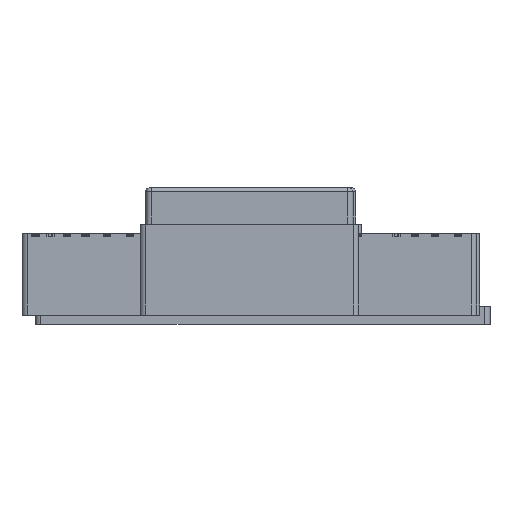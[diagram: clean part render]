
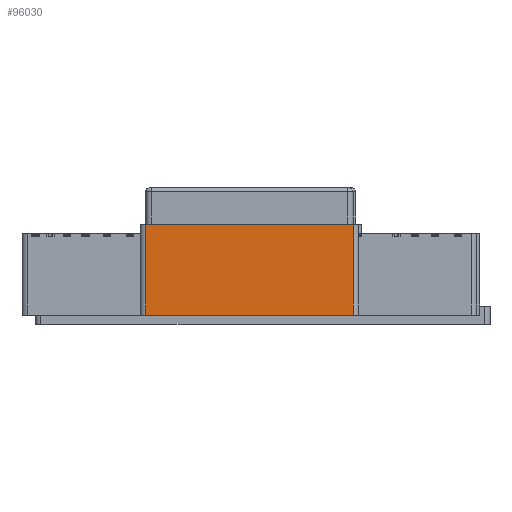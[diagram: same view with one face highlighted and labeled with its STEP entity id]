
A CAD part, left-side view. The second image highlights one B-rep face of the part: STEP entity #96030.
In plain terms, the highlighted planar face has unit normal (-1, 0, 0).
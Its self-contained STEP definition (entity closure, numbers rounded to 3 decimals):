
#9989=PLANE('',#100766);
#13856=LINE('',#144498,#22396);
#13865=LINE('',#144527,#22405);
#13867=LINE('',#144531,#22407);
#13868=LINE('',#144532,#22408);
#22396=VECTOR('',#105690,10.);
#22405=VECTOR('',#105721,10.);
#22407=VECTOR('',#105725,10.);
#22408=VECTOR('',#105726,10.);
#30169=FACE_OUTER_BOUND('',#35624,.T.);
#35624=EDGE_LOOP('',(#71203,#71204,#71205,#71206));
#43726=VERTEX_POINT('',#144495);
#43727=VERTEX_POINT('',#144497);
#43736=VERTEX_POINT('',#144525);
#43737=VERTEX_POINT('',#144530);
#54568=EDGE_CURVE('',#43726,#43727,#13856,.T.);
#54583=EDGE_CURVE('',#43736,#43726,#13865,.T.);
#54585=EDGE_CURVE('',#43737,#43736,#13867,.T.);
#54586=EDGE_CURVE('',#43727,#43737,#13868,.T.);
#71203=ORIENTED_EDGE('',*,*,#54583,.F.);
#71204=ORIENTED_EDGE('',*,*,#54585,.F.);
#71205=ORIENTED_EDGE('',*,*,#54586,.F.);
#71206=ORIENTED_EDGE('',*,*,#54568,.F.);
#96030=ADVANCED_FACE('',(#30169),#9989,.T.);
#100766=AXIS2_PLACEMENT_3D('',#144529,#105723,#105724);
#105690=DIRECTION('',(0.,1.,0.));
#105721=DIRECTION('',(0.,0.,-1.));
#105723=DIRECTION('center_axis',(-1.,0.,0.));
#105724=DIRECTION('ref_axis',(0.,-1.,0.));
#105725=DIRECTION('',(0.,-1.,0.));
#105726=DIRECTION('',(0.,0.,1.));
#144495=CARTESIAN_POINT('',(-112.,-107.,0.));
#144497=CARTESIAN_POINT('',(-112.,7.,0.));
#144498=CARTESIAN_POINT('',(-112.,-110.,0.));
#144525=CARTESIAN_POINT('',(-112.,-107.,50.));
#144527=CARTESIAN_POINT('',(-112.,-107.,0.));
#144529=CARTESIAN_POINT('Origin',(-112.,10.,0.));
#144530=CARTESIAN_POINT('',(-112.,7.,50.));
#144531=CARTESIAN_POINT('',(-112.,-110.,50.));
#144532=CARTESIAN_POINT('',(-112.,7.,0.));
